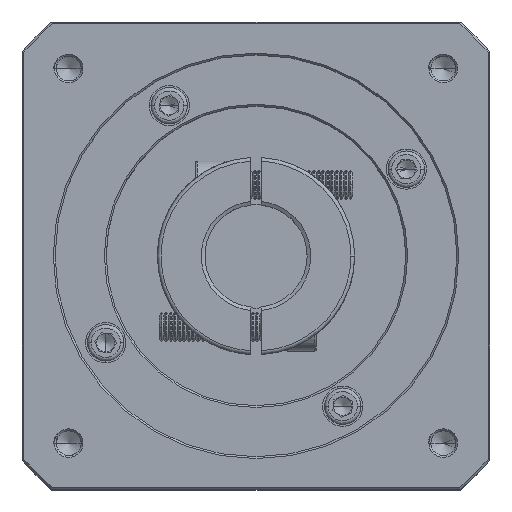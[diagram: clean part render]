
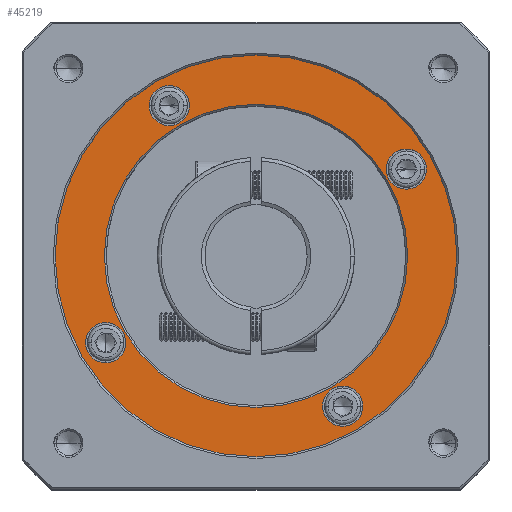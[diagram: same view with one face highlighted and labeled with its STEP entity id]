
A CAD part, top view. The second image highlights one B-rep face of the part: STEP entity #45219.
In plain terms, the highlighted planar face has unit normal (0, 0, 1).
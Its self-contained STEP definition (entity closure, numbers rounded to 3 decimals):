
#1225 = VERTEX_POINT ( 'NONE', #23170 ) ;
#1657 = EDGE_CURVE ( 'NONE', #1225, #69431, #19110, .T. ) ;
#1754 = EDGE_CURVE ( 'NONE', #19364, #49631, #75825, .T. ) ;
#4888 = DIRECTION ( 'NONE',  ( 1., 0., 0. ) ) ;
#5006 = DIRECTION ( 'NONE',  ( 0., 0., -1. ) ) ;
#5232 = ORIENTED_EDGE ( 'NONE', *, *, #1657, .T. ) ;
#5389 = ORIENTED_EDGE ( 'NONE', *, *, #60620, .T. ) ;
#6031 = DIRECTION ( 'NONE',  ( 0., 0., 1. ) ) ;
#6838 = EDGE_LOOP ( 'NONE', ( #14885, #108235 ) ) ;
#8263 = DIRECTION ( 'NONE',  ( 1., 0., 0. ) ) ;
#8339 = FACE_BOUND ( 'NONE', #6838, .T. ) ;
#10712 = EDGE_CURVE ( 'NONE', #69431, #1225, #30939, .T. ) ;
#11295 = AXIS2_PLACEMENT_3D ( 'NONE', #16264, #96463, #78196 ) ;
#11874 = CARTESIAN_POINT ( 'NONE',  ( 65.843, 116.637, -4.938 ) ) ;
#12748 = DIRECTION ( 'NONE',  ( 0., 0., -1. ) ) ;
#14632 = DIRECTION ( 'NONE',  ( 0., 0., -1. ) ) ;
#14885 = ORIENTED_EDGE ( 'NONE', *, *, #1754, .T. ) ;
#15438 = CIRCLE ( 'NONE', #81862, 55. ) ;
#16264 = CARTESIAN_POINT ( 'NONE',  ( 65.843, 116.637, -4.938 ) ) ;
#16625 = CARTESIAN_POINT ( 'NONE',  ( 84.093, 75.501, -4.938 ) ) ;
#17653 = ORIENTED_EDGE ( 'NONE', *, *, #74280, .T. ) ;
#19110 = CIRCLE ( 'NONE', #42841, 5.5 ) ;
#19364 = VERTEX_POINT ( 'NONE', #95125 ) ;
#19774 = CIRCLE ( 'NONE', #104434, 55. ) ;
#20019 = DIRECTION ( 'NONE',  ( 1., 0., 0. ) ) ;
#20726 = FACE_OUTER_BOUND ( 'NONE', #40656, .T. ) ;
#20865 = CARTESIAN_POINT ( 'NONE',  ( 65.843, 116.637, -4.938 ) ) ;
#22117 = AXIS2_PLACEMENT_3D ( 'NONE', #73598, #38010, #37242 ) ;
#23170 = CARTESIAN_POINT ( 'NONE',  ( 36.593, 157.773, -4.938 ) ) ;
#23316 = EDGE_CURVE ( 'NONE', #104712, #108588, #30677, .T. ) ;
#24516 = CARTESIAN_POINT ( 'NONE',  ( 106.979, 140.387, -4.938 ) ) ;
#26884 = AXIS2_PLACEMENT_3D ( 'NONE', #28614, #64548, #28248 ) ;
#28248 = DIRECTION ( 'NONE',  ( 1., 0., 0. ) ) ;
#28396 = DIRECTION ( 'NONE',  ( 1., 0., 0. ) ) ;
#28614 = CARTESIAN_POINT ( 'NONE',  ( 24.707, 92.887, -4.938 ) ) ;
#29307 = EDGE_CURVE ( 'NONE', #49631, #19364, #101502, .T. ) ;
#30677 = CIRCLE ( 'NONE', #107872, 5.5 ) ;
#30939 = CIRCLE ( 'NONE', #80315, 5.5 ) ;
#32009 = VERTEX_POINT ( 'NONE', #61118 ) ;
#32145 = ORIENTED_EDGE ( 'NONE', *, *, #85514, .T. ) ;
#34125 = EDGE_CURVE ( 'NONE', #102080, #66416, #70209, .T. ) ;
#36587 = CARTESIAN_POINT ( 'NONE',  ( 101.479, 140.387, -4.938 ) ) ;
#37242 = DIRECTION ( 'NONE',  ( 1., 0., 0. ) ) ;
#38010 = DIRECTION ( 'NONE',  ( 0., 0., -1. ) ) ;
#38753 = FACE_BOUND ( 'NONE', #73238, .T. ) ;
#39973 = CARTESIAN_POINT ( 'NONE',  ( 95.093, 75.501, -4.938 ) ) ;
#40066 = CARTESIAN_POINT ( 'NONE',  ( 107.343, 116.637, -4.938 ) ) ;
#40656 = EDGE_LOOP ( 'NONE', ( #110871, #17653 ) ) ;
#42414 = DIRECTION ( 'NONE',  ( 1., 0., 0. ) ) ;
#42841 = AXIS2_PLACEMENT_3D ( 'NONE', #61247, #52733, #8263 ) ;
#44345 = VERTEX_POINT ( 'NONE', #36587 ) ;
#45219 = ADVANCED_FACE ( 'NONE', ( #20726, #59507, #47104, #70587, #38753, #8339 ), #112997, .T. ) ;
#47088 = CIRCLE ( 'NONE', #69333, 5.5 ) ;
#47104 = FACE_BOUND ( 'NONE', #69600, .T. ) ;
#47137 = CARTESIAN_POINT ( 'NONE',  ( 42.093, 157.773, -4.938 ) ) ;
#47942 = CARTESIAN_POINT ( 'NONE',  ( 89.593, 75.501, -4.938 ) ) ;
#49631 = VERTEX_POINT ( 'NONE', #58978 ) ;
#50415 = EDGE_LOOP ( 'NONE', ( #109126, #5389 ) ) ;
#51607 = DIRECTION ( 'NONE',  ( 1., 0., 0. ) ) ;
#51916 = AXIS2_PLACEMENT_3D ( 'NONE', #113767, #104080, #42414 ) ;
#52235 = CARTESIAN_POINT ( 'NONE',  ( 24.343, 116.637, -4.938 ) ) ;
#52733 = DIRECTION ( 'NONE',  ( 0., 0., -1. ) ) ;
#52792 = EDGE_CURVE ( 'NONE', #44345, #55495, #65265, .T. ) ;
#53930 = DIRECTION ( 'NONE',  ( 0., 0., -1. ) ) ;
#55495 = VERTEX_POINT ( 'NONE', #96476 ) ;
#58978 = CARTESIAN_POINT ( 'NONE',  ( 19.207, 92.887, -4.938 ) ) ;
#59507 = FACE_BOUND ( 'NONE', #50415, .T. ) ;
#60620 = EDGE_CURVE ( 'NONE', #66416, #102080, #83338, .T. ) ;
#61118 = CARTESIAN_POINT ( 'NONE',  ( 120.843, 116.637, -4.938 ) ) ;
#61247 = CARTESIAN_POINT ( 'NONE',  ( 42.093, 157.773, -4.938 ) ) ;
#64548 = DIRECTION ( 'NONE',  ( 0., 0., -1. ) ) ;
#65265 = CIRCLE ( 'NONE', #100523, 5.5 ) ;
#65616 = DIRECTION ( 'NONE',  ( 0., 0., 1. ) ) ;
#66416 = VERTEX_POINT ( 'NONE', #52235 ) ;
#67603 = CARTESIAN_POINT ( 'NONE',  ( 89.593, 75.501, -4.938 ) ) ;
#68267 = CARTESIAN_POINT ( 'NONE',  ( 65.843, 116.637, -4.938 ) ) ;
#69333 = AXIS2_PLACEMENT_3D ( 'NONE', #24516, #95014, #51607 ) ;
#69431 = VERTEX_POINT ( 'NONE', #75798 ) ;
#69600 = EDGE_LOOP ( 'NONE', ( #32145, #97549 ) ) ;
#70209 = CIRCLE ( 'NONE', #112101, 41.5 ) ;
#70587 = FACE_BOUND ( 'NONE', #111104, .T. ) ;
#73238 = EDGE_LOOP ( 'NONE', ( #104043, #5232 ) ) ;
#73598 = CARTESIAN_POINT ( 'NONE',  ( 24.707, 92.887, -4.938 ) ) ;
#74280 = EDGE_CURVE ( 'NONE', #91298, #32009, #19774, .T. ) ;
#74700 = ORIENTED_EDGE ( 'NONE', *, *, #23316, .T. ) ;
#75798 = CARTESIAN_POINT ( 'NONE',  ( 47.593, 157.773, -4.938 ) ) ;
#75825 = CIRCLE ( 'NONE', #22117, 5.5 ) ;
#78196 = DIRECTION ( 'NONE',  ( 1., 0., 0. ) ) ;
#80315 = AXIS2_PLACEMENT_3D ( 'NONE', #47137, #82369, #20019 ) ;
#81862 = AXIS2_PLACEMENT_3D ( 'NONE', #11874, #65616, #110689 ) ;
#82369 = DIRECTION ( 'NONE',  ( 0., 0., -1. ) ) ;
#83338 = CIRCLE ( 'NONE', #11295, 41.5 ) ;
#85481 = DIRECTION ( 'NONE',  ( 1., 0., 0. ) ) ;
#85514 = EDGE_CURVE ( 'NONE', #55495, #44345, #47088, .T. ) ;
#91298 = VERTEX_POINT ( 'NONE', #95648 ) ;
#91466 = CIRCLE ( 'NONE', #91585, 5.5 ) ;
#91585 = AXIS2_PLACEMENT_3D ( 'NONE', #67603, #14632, #85481 ) ;
#95014 = DIRECTION ( 'NONE',  ( 0., 0., -1. ) ) ;
#95125 = CARTESIAN_POINT ( 'NONE',  ( 30.207, 92.887, -4.938 ) ) ;
#95648 = CARTESIAN_POINT ( 'NONE',  ( 10.843, 116.637, -4.938 ) ) ;
#96463 = DIRECTION ( 'NONE',  ( 0., 0., -1. ) ) ;
#96476 = CARTESIAN_POINT ( 'NONE',  ( 112.479, 140.387, -4.938 ) ) ;
#96763 = EDGE_CURVE ( 'NONE', #108588, #104712, #91466, .T. ) ;
#97549 = ORIENTED_EDGE ( 'NONE', *, *, #52792, .T. ) ;
#100523 = AXIS2_PLACEMENT_3D ( 'NONE', #107138, #53930, #28396 ) ;
#101502 = CIRCLE ( 'NONE', #26884, 5.5 ) ;
#101809 = DIRECTION ( 'NONE',  ( 1., 0., 0. ) ) ;
#102017 = EDGE_CURVE ( 'NONE', #32009, #91298, #15438, .T. ) ;
#102080 = VERTEX_POINT ( 'NONE', #40066 ) ;
#104043 = ORIENTED_EDGE ( 'NONE', *, *, #10712, .T. ) ;
#104080 = DIRECTION ( 'NONE',  ( 0., 0., 1. ) ) ;
#104434 = AXIS2_PLACEMENT_3D ( 'NONE', #68267, #6031, #4888 ) ;
#104712 = VERTEX_POINT ( 'NONE', #39973 ) ;
#107138 = CARTESIAN_POINT ( 'NONE',  ( 106.979, 140.387, -4.938 ) ) ;
#107872 = AXIS2_PLACEMENT_3D ( 'NONE', #47942, #12748, #101809 ) ;
#108235 = ORIENTED_EDGE ( 'NONE', *, *, #29307, .T. ) ;
#108588 = VERTEX_POINT ( 'NONE', #16625 ) ;
#109126 = ORIENTED_EDGE ( 'NONE', *, *, #34125, .T. ) ;
#110093 = DIRECTION ( 'NONE',  ( 1., 0., 0. ) ) ;
#110689 = DIRECTION ( 'NONE',  ( 1., 0., 0. ) ) ;
#110871 = ORIENTED_EDGE ( 'NONE', *, *, #102017, .T. ) ;
#111104 = EDGE_LOOP ( 'NONE', ( #74700, #112401 ) ) ;
#112101 = AXIS2_PLACEMENT_3D ( 'NONE', #20865, #5006, #110093 ) ;
#112401 = ORIENTED_EDGE ( 'NONE', *, *, #96763, .T. ) ;
#112997 = PLANE ( 'NONE',  #51916 ) ;
#113767 = CARTESIAN_POINT ( 'NONE',  ( 65.843, 116.637, -4.938 ) ) ;
